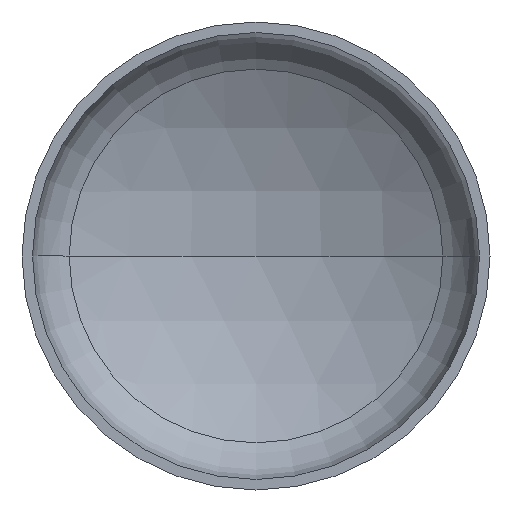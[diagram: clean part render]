
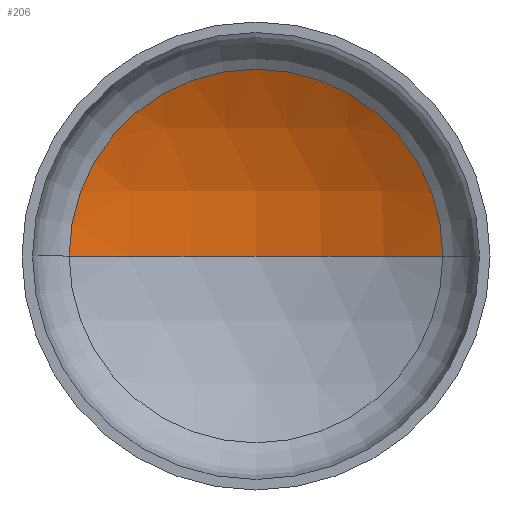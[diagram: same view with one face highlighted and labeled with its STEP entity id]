
A CAD part, front view. The second image highlights one B-rep face of the part: STEP entity #206.
In plain terms, the highlighted spherical face has radius 640 mm.
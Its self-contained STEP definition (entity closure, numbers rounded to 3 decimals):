
#5 = CARTESIAN_POINT ( 'NONE',  ( 0., 248.709, 0. ) ) ;
#15 = ORIENTED_EDGE ( 'NONE', *, *, #86, .T. ) ;
#23 = AXIS2_PLACEMENT_3D ( 'NONE', #269, #212, #240 ) ;
#24 = EDGE_LOOP ( 'NONE', ( #89, #15, #76 ) ) ;
#33 = AXIS2_PLACEMENT_3D ( 'NONE', #205, #118, #309 ) ;
#38 = AXIS2_PLACEMENT_3D ( 'NONE', #222, #218, #215 ) ;
#40 = VERTEX_POINT ( 'NONE', #369 ) ;
#43 = AXIS2_PLACEMENT_3D ( 'NONE', #305, #304, #302 ) ;
#76 = ORIENTED_EDGE ( 'NONE', *, *, #84, .T. ) ;
#84 = EDGE_CURVE ( 'NONE', #40, #136, #88, .T. ) ;
#86 = EDGE_CURVE ( 'NONE', #135, #40, #374, .T. ) ;
#88 = CIRCLE ( 'NONE', #43, 319.379 ) ;
#89 = ORIENTED_EDGE ( 'NONE', *, *, #93, .F. ) ;
#93 = EDGE_CURVE ( 'NONE', #135, #136, #312, .T. ) ;
#118 = DIRECTION ( 'NONE',  ( 0., 0., 1. ) ) ;
#135 = VERTEX_POINT ( 'NONE', #5 ) ;
#136 = VERTEX_POINT ( 'NONE', #245 ) ;
#205 = CARTESIAN_POINT ( 'NONE',  ( 0., -391.291, 0. ) ) ;
#206 = ADVANCED_FACE ( 'NONE', ( #307 ), #364, .F. ) ;
#212 = DIRECTION ( 'NONE',  ( 0., 0., -1. ) ) ;
#215 = DIRECTION ( 'NONE',  ( -1., 0., 0. ) ) ;
#218 = DIRECTION ( 'NONE',  ( 0., 0., -1. ) ) ;
#222 = CARTESIAN_POINT ( 'NONE',  ( 0., -391.291, 0. ) ) ;
#240 = DIRECTION ( 'NONE',  ( -1., 0., 0. ) ) ;
#245 = CARTESIAN_POINT ( 'NONE',  ( -319.379, 163.323, 0. ) ) ;
#269 = CARTESIAN_POINT ( 'NONE',  ( 0., -391.291, 0. ) ) ;
#302 = DIRECTION ( 'NONE',  ( 1., 0., 0. ) ) ;
#304 = DIRECTION ( 'NONE',  ( 0., -1., 0. ) ) ;
#305 = CARTESIAN_POINT ( 'NONE',  ( 0., 163.323, 0. ) ) ;
#307 = FACE_OUTER_BOUND ( 'NONE', #24, .T. ) ;
#309 = DIRECTION ( 'NONE',  ( 1., 0., 0. ) ) ;
#312 = CIRCLE ( 'NONE', #33, 640. ) ;
#364 = SPHERICAL_SURFACE ( 'NONE', #23, 640. ) ;
#369 = CARTESIAN_POINT ( 'NONE',  ( 319.379, 163.323, 0. ) ) ;
#374 = CIRCLE ( 'NONE', #38, 640. ) ;
